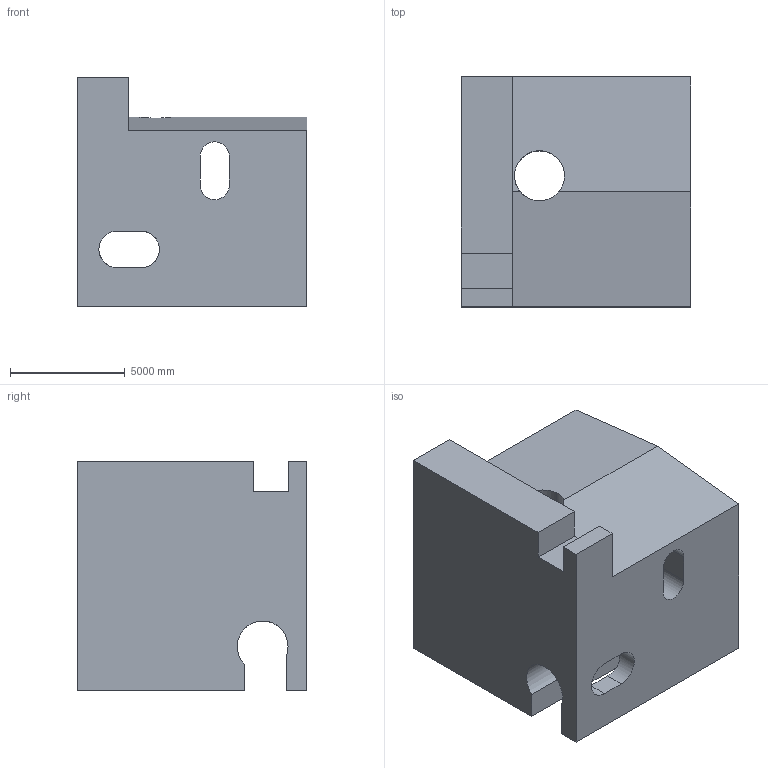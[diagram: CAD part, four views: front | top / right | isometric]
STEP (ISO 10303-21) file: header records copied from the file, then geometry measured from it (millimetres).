
FILE_DESCRIPTION (( 'STEP AP203' ), '1' );
FILE_NAME ('757.STEP', '2022-08-04T15:48:31', ( 'user' ), ( '' ), 'SwSTEP 2.0', 'SolidWorks 2021', '' );
FILE_SCHEMA (( 'CONFIG_CONTROL_DESIGN' ));
Length unit declared in the file: centimetre
Products named in the file (1): 757
Bounding box: 10000 x 10000 x 10000 mm (x, y, z)
Volume: 691464988638.8 mm3; surface area: 763505914.4 mm2
Topology: 1 solids, 1 shells, 34 faces, 105 edges, 70 vertices
Faces by surface type: plane 25, cylinder 9
Entity records: 1920 total; most frequent: CARTESIAN_POINT 886, ORIENTED_EDGE 210, DIRECTION 185, EDGE_CURVE 105, LINE 79, VECTOR 79, VERTEX_POINT 70, AXIS2_PLACEMENT_3D 53
